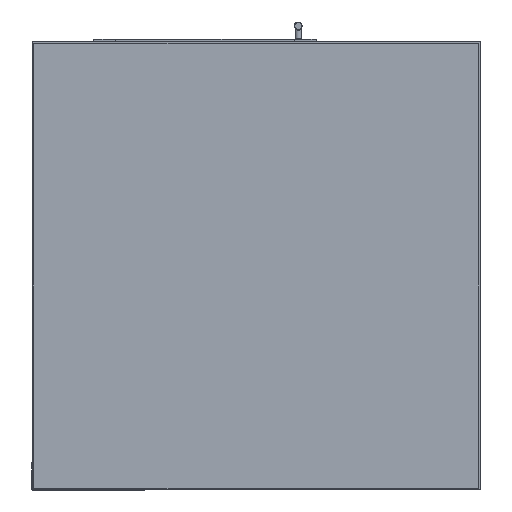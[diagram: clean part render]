
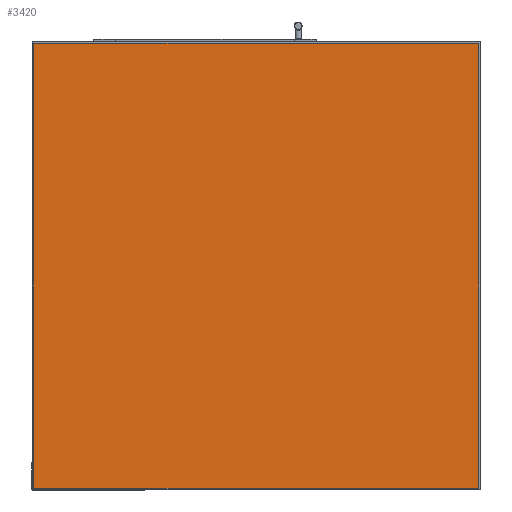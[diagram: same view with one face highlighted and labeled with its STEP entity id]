
A CAD part, front view. The second image highlights one B-rep face of the part: STEP entity #3420.
In plain terms, the highlighted planar face has unit normal (0, -1, 0).
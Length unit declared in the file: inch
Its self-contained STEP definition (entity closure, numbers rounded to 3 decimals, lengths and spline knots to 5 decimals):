
#237=FACE_OUTER_BOUND('',#419,.T.);
#419=EDGE_LOOP('',(#2657,#2658,#2659,#2660));
#742=LINE('',#6096,#1142);
#746=LINE('',#6103,#1146);
#748=LINE('',#6108,#1148);
#750=LINE('',#6111,#1150);
#1142=VECTOR('',#4304,0.3937);
#1146=VECTOR('',#4310,0.3937);
#1148=VECTOR('',#4314,0.3937);
#1150=VECTOR('',#4318,0.3937);
#1530=VERTEX_POINT('',#6093);
#1531=VERTEX_POINT('',#6095);
#1533=VERTEX_POINT('',#6101);
#1535=VERTEX_POINT('',#6107);
#1934=EDGE_CURVE('',#1531,#1530,#742,.T.);
#1938=EDGE_CURVE('',#1530,#1533,#746,.T.);
#1940=EDGE_CURVE('',#1531,#1535,#748,.T.);
#1942=EDGE_CURVE('',#1535,#1533,#750,.T.);
#2657=ORIENTED_EDGE('',*,*,#1934,.T.);
#2658=ORIENTED_EDGE('',*,*,#1938,.T.);
#2659=ORIENTED_EDGE('',*,*,#1942,.F.);
#2660=ORIENTED_EDGE('',*,*,#1940,.F.);
#3097=PLANE('',#3669);
#3420=ADVANCED_FACE('',(#237),#3097,.T.);
#3669=AXIS2_PLACEMENT_3D('',#6110,#4316,#4317);
#4304=DIRECTION('',(1.,0.,0.));
#4310=DIRECTION('',(0.,0.,1.));
#4314=DIRECTION('',(0.,0.,1.));
#4316=DIRECTION('center_axis',(0.,-1.,0.));
#4317=DIRECTION('ref_axis',(1.,0.,0.));
#4318=DIRECTION('',(1.,0.,0.));
#6093=CARTESIAN_POINT('',(71.75,-1.38605,-1.67822));
#6095=CARTESIAN_POINT('',(0.25,-1.38605,-1.67822));
#6096=CARTESIAN_POINT('',(0.25,-1.38605,-1.67822));
#6101=CARTESIAN_POINT('',(71.75,-1.38605,69.82178));
#6103=CARTESIAN_POINT('',(71.75,-1.38605,-1.67822));
#6107=CARTESIAN_POINT('',(0.25,-1.38605,69.82178));
#6108=CARTESIAN_POINT('',(0.25,-1.38605,-1.67822));
#6110=CARTESIAN_POINT('Origin',(0.25,-1.38605,-1.67822));
#6111=CARTESIAN_POINT('',(0.25,-1.38605,69.82178));
